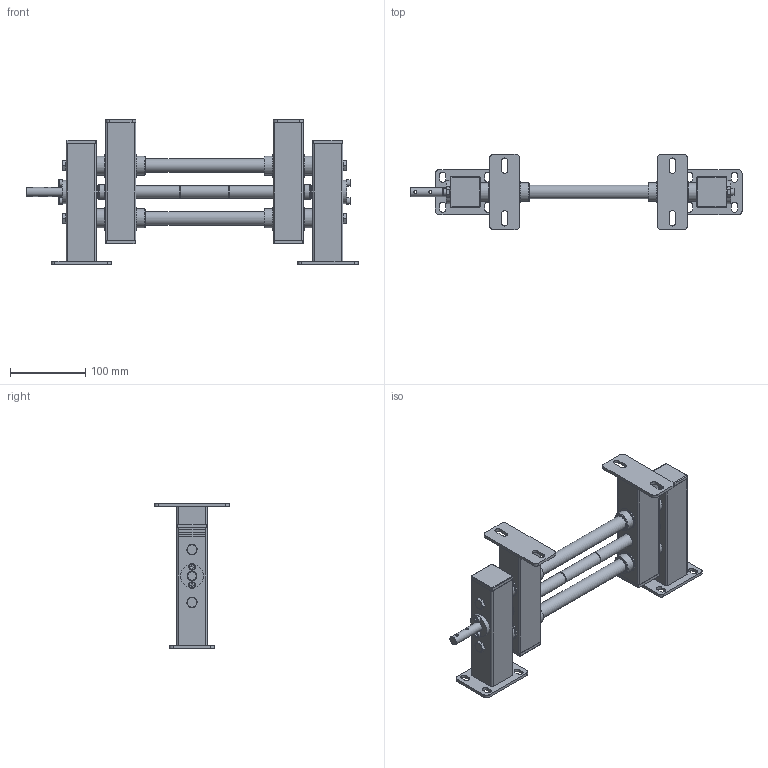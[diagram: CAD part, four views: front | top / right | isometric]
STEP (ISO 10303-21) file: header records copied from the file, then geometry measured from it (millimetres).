
FILE_DESCRIPTION(/* description */ ('SIDE ADJUSTMENT FOR SIDE GRIP CONVEYOR'),/* implementation_level */ '2;1');
FILE_NAME(/* name */ '\\carryline.intra\privat\users\mathias\Desktop\Tillfälliga filer\100-1400.stp',/* time_stamp */ '2018-11-20T10:31:32+01:00',/* author */ ('ML'),/* organization */ ('CARRYLINE'),/* preprocessor_version */ 'ST-DEVELOPER v17',/* originating_system */ 'Autodesk Inventor 2018',/* authorisation */ '');
FILE_SCHEMA (('AUTOMOTIVE_DESIGN { 1 0 10303 214 3 1 1 }'));
Length unit declared in the file: millimetre
Products named in the file (20): 100-1400-0-100; 15975_3; 15975_5; 15975_1; 15975_7; 15975_10; 15957_9; 15975_8; 15975_2; 15975_6; 15975_4; 5590-25; 5510-516; 15975_12; 15975_17; 15975_11; ISO 4026 - M5 x 5; 17078; 500-2010; 5500-816
Assembly tree (51 placements, depth 3):
  100-1400-0-100
    15975_4  x4
    15975_3  x2
    15975_5  x2
      15975_1
      15975_7
    15975_8  x2
      15975_2
      15975_6
    15975_10
    15957_9
    5590-25  x8
    5510-516  x4
    15975_11  x2
    ISO 4026 - M5 x 5  x2
    15975_12  x2
    15975_17
    17078  x8
    500-2010  x4
    5500-816  x4
Bounding box: 441.5 x 100 x 192 mm (x, y, z)
Volume: 675925.9 mm3; surface area: 422542.7 mm2
Topology: 55 solids, 55 shells, 1077 faces, 2733 edges, 1794 vertices
Faces by surface type: plane 592, cylinder 261, cone 200, sphere 16, torus 8
Full cylindrical faces by diameter (mm): 2 x16, 4 x2, 4.134 x6, 5 x10, 6.647 x4, 8 x4, 8.5 x8, 11.63 x4, 12 x4, 12.3 x2, 13.835 x2, 16 x3, 18 x24, 19 x4, 20 x18, 23.9 x8, 25 x20, 31 x2
Entity records: 11721 total; most frequent: CARTESIAN_POINT 2263, DIRECTION 1893, ORIENTED_EDGE 1748, EDGE_CURVE 874, AXIS2_PLACEMENT_3D 702, VERTEX_POINT 583, LINE 489, VECTOR 489
